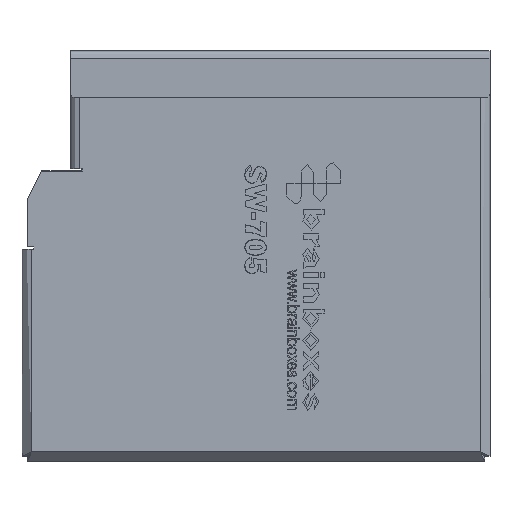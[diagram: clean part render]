
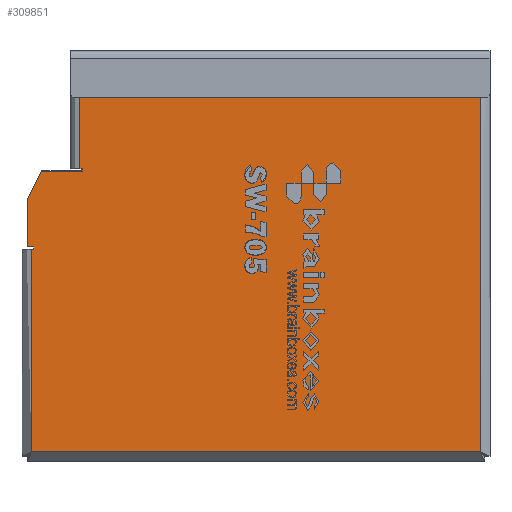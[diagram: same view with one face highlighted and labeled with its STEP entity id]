
A CAD part, top view. The second image highlights one B-rep face of the part: STEP entity #309851.
In plain terms, the highlighted planar face has unit normal (0, 0, 1).
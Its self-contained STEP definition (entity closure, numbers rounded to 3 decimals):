
#309786 = VERTEX_POINT('',#309787);
#309787 = CARTESIAN_POINT('',(-41.15,43.85,21.));
#309793 = EDGE_CURVE('',#309794,#309786,#309796,.T.);
#309794 = VERTEX_POINT('',#309795);
#309795 = CARTESIAN_POINT('',(43.85,43.85,21.));
#309796 = LINE('',#309797,#309798);
#309797 = CARTESIAN_POINT('',(44.85,43.85,21.));
#309798 = VECTOR('',#309799,1.);
#309799 = DIRECTION('',(-1.,0.,0.));
#309818 = VERTEX_POINT('',#309819);
#309819 = CARTESIAN_POINT('',(-49.35,19.75,21.));
#309825 = EDGE_CURVE('',#309826,#309818,#309828,.T.);
#309826 = VERTEX_POINT('',#309827);
#309827 = CARTESIAN_POINT('',(-40.65,19.75,21.));
#309828 = LINE('',#309829,#309830);
#309829 = CARTESIAN_POINT('',(-42.15,19.75,21.));
#309830 = VECTOR('',#309831,1.);
#309831 = DIRECTION('',(-1.,-0.,0.));
#309851 = ADVANCED_FACE('',(#309852),#309940,.T.);
#309852 = FACE_BOUND('',#309853,.T.);
#309853 = EDGE_LOOP('',(#309854,#309862,#309870,#309878,#309886,#309894,
    #309902,#309910,#309916,#309917,#309925,#309933,#309939));
#309854 = ORIENTED_EDGE('',*,*,#309855,.F.);
#309855 = EDGE_CURVE('',#309856,#309818,#309858,.T.);
#309856 = VERTEX_POINT('',#309857);
#309857 = CARTESIAN_POINT('',(-52.35,13.75,21.));
#309858 = LINE('',#309859,#309860);
#309859 = CARTESIAN_POINT('',(-49.35,19.75,21.));
#309860 = VECTOR('',#309861,1.);
#309861 = DIRECTION('',(0.447,0.894,0.));
#309862 = ORIENTED_EDGE('',*,*,#309863,.F.);
#309863 = EDGE_CURVE('',#309864,#309856,#309866,.T.);
#309864 = VERTEX_POINT('',#309865);
#309865 = CARTESIAN_POINT('',(-52.35,3.65,21.));
#309866 = LINE('',#309867,#309868);
#309867 = CARTESIAN_POINT('',(-52.35,3.65,21.));
#309868 = VECTOR('',#309869,1.);
#309869 = DIRECTION('',(0.,1.,0.));
#309870 = ORIENTED_EDGE('',*,*,#309871,.T.);
#309871 = EDGE_CURVE('',#309864,#309872,#309874,.T.);
#309872 = VERTEX_POINT('',#309873);
#309873 = CARTESIAN_POINT('',(-50.95,3.65,21.));
#309874 = LINE('',#309875,#309876);
#309875 = CARTESIAN_POINT('',(-3.8,3.65,21.));
#309876 = VECTOR('',#309877,1.);
#309877 = DIRECTION('',(1.,0.,0.));
#309878 = ORIENTED_EDGE('',*,*,#309879,.T.);
#309879 = EDGE_CURVE('',#309872,#309880,#309882,.T.);
#309880 = VERTEX_POINT('',#309881);
#309881 = CARTESIAN_POINT('',(-50.95,3.15,21.));
#309882 = LINE('',#309883,#309884);
#309883 = CARTESIAN_POINT('',(-50.95,1.5,21.));
#309884 = VECTOR('',#309885,1.);
#309885 = DIRECTION('',(0.,-1.,0.));
#309886 = ORIENTED_EDGE('',*,*,#309887,.T.);
#309887 = EDGE_CURVE('',#309880,#309888,#309890,.T.);
#309888 = VERTEX_POINT('',#309889);
#309889 = CARTESIAN_POINT('',(-51.45,3.15,21.));
#309890 = LINE('',#309891,#309892);
#309891 = CARTESIAN_POINT('',(-3.8,3.15,21.));
#309892 = VECTOR('',#309893,1.);
#309893 = DIRECTION('',(-1.,-0.,0.));
#309894 = ORIENTED_EDGE('',*,*,#309895,.F.);
#309895 = EDGE_CURVE('',#309896,#309888,#309898,.T.);
#309896 = VERTEX_POINT('',#309897);
#309897 = CARTESIAN_POINT('',(-51.45,-39.85,21.));
#309898 = LINE('',#309899,#309900);
#309899 = CARTESIAN_POINT('',(-51.45,3.15,21.));
#309900 = VECTOR('',#309901,1.);
#309901 = DIRECTION('',(0.,1.,0.));
#309902 = ORIENTED_EDGE('',*,*,#309903,.F.);
#309903 = EDGE_CURVE('',#309904,#309896,#309906,.T.);
#309904 = VERTEX_POINT('',#309905);
#309905 = CARTESIAN_POINT('',(43.85,-39.85,21.));
#309906 = LINE('',#309907,#309908);
#309907 = CARTESIAN_POINT('',(-52.309,-39.85,21.));
#309908 = VECTOR('',#309909,1.);
#309909 = DIRECTION('',(-1.,0.,0.));
#309910 = ORIENTED_EDGE('',*,*,#309911,.F.);
#309911 = EDGE_CURVE('',#309794,#309904,#309912,.T.);
#309912 = LINE('',#309913,#309914);
#309913 = CARTESIAN_POINT('',(43.85,-40.709,21.));
#309914 = VECTOR('',#309915,1.);
#309915 = DIRECTION('',(0.,-1.,0.));
#309916 = ORIENTED_EDGE('',*,*,#309793,.T.);
#309917 = ORIENTED_EDGE('',*,*,#309918,.F.);
#309918 = EDGE_CURVE('',#309919,#309786,#309921,.T.);
#309919 = VERTEX_POINT('',#309920);
#309920 = CARTESIAN_POINT('',(-41.15,20.25,21.));
#309921 = LINE('',#309922,#309923);
#309922 = CARTESIAN_POINT('',(-41.15,43.85,21.));
#309923 = VECTOR('',#309924,1.);
#309924 = DIRECTION('',(0.,1.,0.));
#309925 = ORIENTED_EDGE('',*,*,#309926,.T.);
#309926 = EDGE_CURVE('',#309919,#309927,#309929,.T.);
#309927 = VERTEX_POINT('',#309928);
#309928 = CARTESIAN_POINT('',(-40.65,20.25,21.));
#309929 = LINE('',#309930,#309931);
#309930 = CARTESIAN_POINT('',(-3.8,20.25,21.));
#309931 = VECTOR('',#309932,1.);
#309932 = DIRECTION('',(1.,0.,0.));
#309933 = ORIENTED_EDGE('',*,*,#309934,.T.);
#309934 = EDGE_CURVE('',#309927,#309826,#309935,.T.);
#309935 = LINE('',#309936,#309937);
#309936 = CARTESIAN_POINT('',(-40.65,1.5,21.));
#309937 = VECTOR('',#309938,1.);
#309938 = DIRECTION('',(0.,-1.,0.));
#309939 = ORIENTED_EDGE('',*,*,#309825,.T.);
#309940 = PLANE('',#309941);
#309941 = AXIS2_PLACEMENT_3D('',#309942,#309943,#309944);
#309942 = CARTESIAN_POINT('',(-3.8,1.5,21.));
#309943 = DIRECTION('',(0.,0.,1.));
#309944 = DIRECTION('',(1.,0.,0.));
